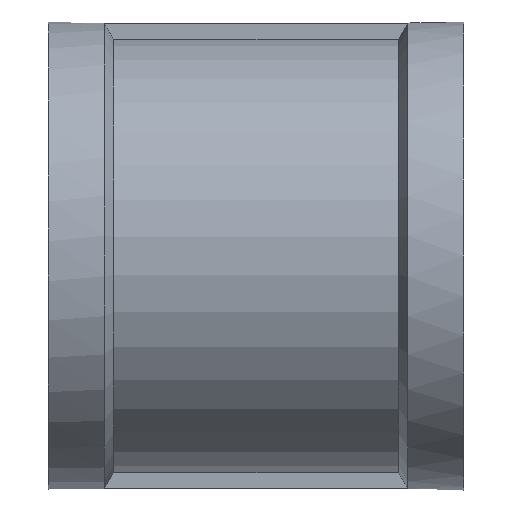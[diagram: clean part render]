
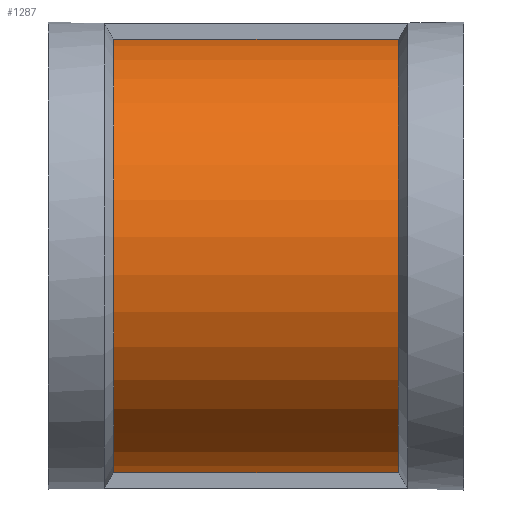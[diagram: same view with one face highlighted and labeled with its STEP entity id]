
A CAD part, front view. The second image highlights one B-rep face of the part: STEP entity #1287.
In plain terms, the highlighted cylindrical face has radius 26.75 mm (diameter 53.5 mm), a partial arc.
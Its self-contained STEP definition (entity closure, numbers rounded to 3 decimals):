
#178=FACE_OUTER_BOUND('',#256,.T.);
#256=EDGE_LOOP('',(#990,#991,#992,#993));
#339=LINE('',#2046,#412);
#342=LINE('',#2074,#415);
#412=VECTOR('',#1591,10.);
#415=VECTOR('',#1600,10.);
#477=CIRCLE('',#1411,26.75);
#478=CIRCLE('',#1413,26.75);
#539=VERTEX_POINT('',#2036);
#541=VERTEX_POINT('',#2042);
#546=VERTEX_POINT('',#2068);
#548=VERTEX_POINT('',#2073);
#695=EDGE_CURVE('',#539,#541,#339,.T.);
#703=EDGE_CURVE('',#548,#546,#342,.T.);
#715=EDGE_CURVE('',#541,#548,#477,.T.);
#716=EDGE_CURVE('',#539,#546,#478,.T.);
#990=ORIENTED_EDGE('',*,*,#695,.T.);
#991=ORIENTED_EDGE('',*,*,#715,.T.);
#992=ORIENTED_EDGE('',*,*,#703,.T.);
#993=ORIENTED_EDGE('',*,*,#716,.F.);
#1220=CYLINDRICAL_SURFACE('',#1412,26.75);
#1287=ADVANCED_FACE('',(#178),#1220,.T.);
#1411=AXIS2_PLACEMENT_3D('',#2100,#1630,#1631);
#1412=AXIS2_PLACEMENT_3D('',#2101,#1632,#1633);
#1413=AXIS2_PLACEMENT_3D('',#2102,#1634,#1635);
#1591=DIRECTION('',(1.,0.,0.));
#1600=DIRECTION('',(-1.,0.,0.));
#1630=DIRECTION('center_axis',(-1.,0.,0.));
#1631=DIRECTION('ref_axis',(0.,0.,1.));
#1632=DIRECTION('center_axis',(-1.,0.,0.));
#1633=DIRECTION('ref_axis',(0.,-1.,0.));
#1634=DIRECTION('center_axis',(-1.,0.,0.));
#1635=DIRECTION('ref_axis',(0.,0.,1.));
#2036=CARTESIAN_POINT('',(-27.585,-2.73,-26.61));
#2042=CARTESIAN_POINT('',(7.415,-2.73,-26.61));
#2046=CARTESIAN_POINT('',(-10.085,-2.73,-26.61));
#2068=CARTESIAN_POINT('',(-27.585,-2.73,26.61));
#2073=CARTESIAN_POINT('',(7.415,-2.73,26.61));
#2074=CARTESIAN_POINT('',(-10.085,-2.73,26.61));
#2100=CARTESIAN_POINT('Origin',(7.415,0.,
0.));
#2101=CARTESIAN_POINT('Origin',(-10.085,0.,
0.));
#2102=CARTESIAN_POINT('Origin',(-27.585,0.,
0.));
